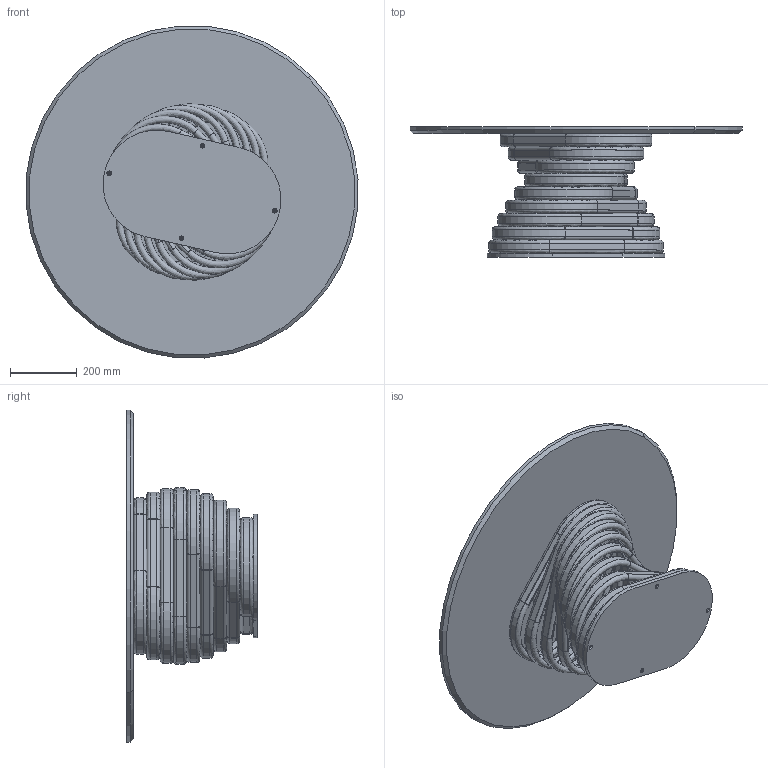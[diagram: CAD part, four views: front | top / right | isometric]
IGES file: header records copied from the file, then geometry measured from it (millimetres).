
Start section: SolidWorks IGES file using analytic representation for surfaces
Global section: file name: Y:\eforma\TECNICO\SOLIDWORKS\E-FORMA\2-TAVOLINI\ROTOLO LOW\02 parts\RL03M.IGS; native system: SolidWorks 2022; preprocessor: SolidWorks 2022; author: eforma.tech; date: 240806.143654; units: millimetre
Bounding box: 997.08 x 392 x 997.08 mm (x, y, z)
Volume: 20093359.1 mm3; surface area: 4434080.5 mm2
Topology: 46 solids, 46 shells, 632 faces, 1518 edges, 968 vertices
Faces by surface type: revolution 397, plane 230, bspline 5
